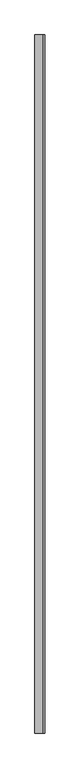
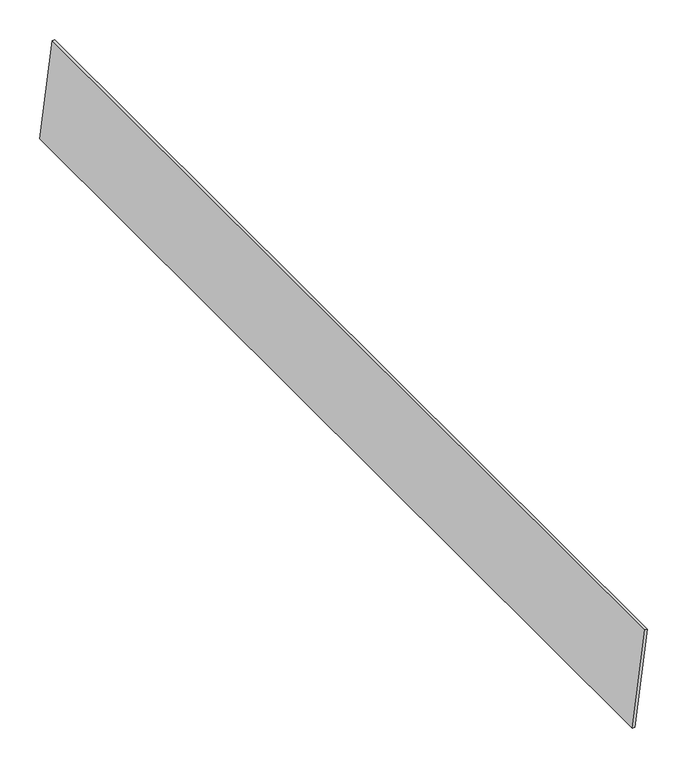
"""IFC4 building model written with IfcOpenShell, lengths in millimetres: plate geometry, 結構襯料 17 : 結構襯料 17."""

from ifc_helpers import new_model, si_unit, frame, origin, place, context, project, spatial, polyline, outline, extrude, source, transform, mapped, element, save


def plate_9a836a35(model_context):
    return source(origin(), model_context, "Body", "SweptSolid", [
        extrude(outline(polyline([(-2363.9265766, -13909.1497799), (-2363.9265766, -13905.9248768), (-2219.9265766, -13887.9248768), (-2219.9265766, -13891.1497799), (-2363.9265766, -13909.1497799)])), frame((0.0, -2590.1928355, 0.0), z_axis=(0.0, 1.0, 0.0), x_axis=(0.0, 0.0, 1.0)), (0.0, 0.0, 1.0), 1485.0),
    ])


if __name__ == "__main__":
    model = new_model("IFC4")
    model_context = context("Model", 3, world=origin())
    ifc_project = project(units=[si_unit("LENGTHUNIT", "METRE", prefix="MILLI")], contexts=[model_context])
    site = spatial("IfcSite", under=ifc_project)
    building = spatial("IfcBuilding", under=site)
    placement = place(None, origin())
    plate_shape = plate_9a836a35(model_context)
    element("IfcPlate", 1, ObjectType="結構襯料 17 : 結構襯料 17", at=placement, inside=building, context=model_context, shape_type="MappedRepresentation", body=[
        mapped(plate_shape, transform((0.0, 0.0, 0.0), x_axis=(1.0, 0.0, 0.0), y_axis=(0.0, 1.0, 0.0), z_axis=(0.0, 0.0, 1.0))),
    ])
    save(model, "model.ifc")
